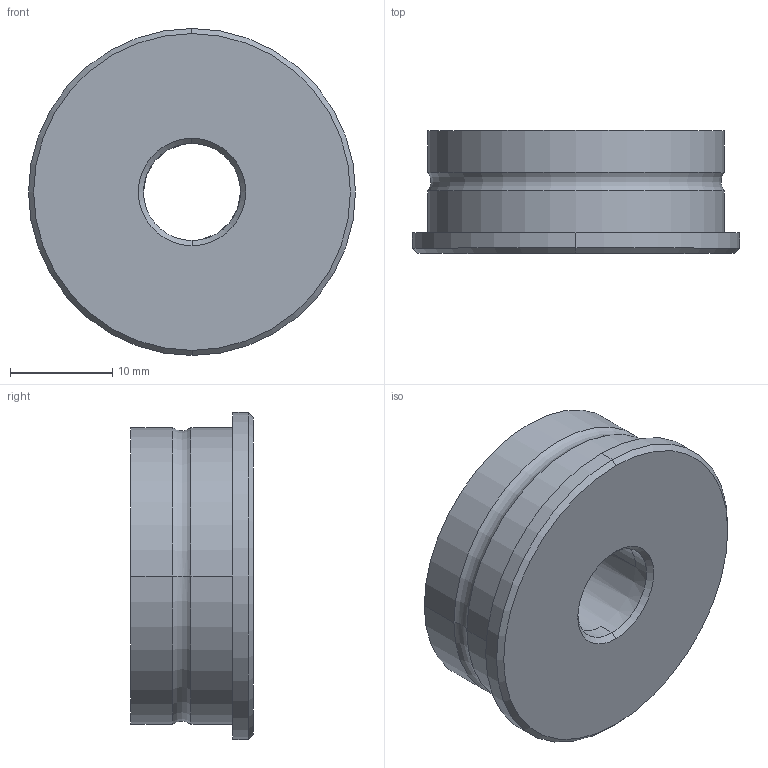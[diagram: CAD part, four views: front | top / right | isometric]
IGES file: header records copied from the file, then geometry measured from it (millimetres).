
Start section:  PTC IGES file: uc3-a03.igs
Global section: file name: uc3-a03.igs; native system: Creo Parametric by PTC Inc.; preprocessor: 2016130; author: Eric; organization: Unknown; date: 20171006.115249; units: millimetre
Bounding box: 32 x 12 x 32 mm (x, y, z)
Surface area: 2899.9 mm2 (no closed solid volume)
Topology: 0 solids, 0 shells, 19 faces, 84 edges, 84 vertices
Faces by surface type: revolution 16, bspline 3
